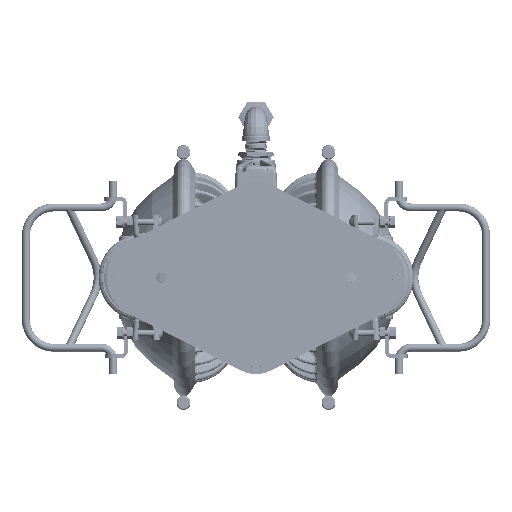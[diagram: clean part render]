
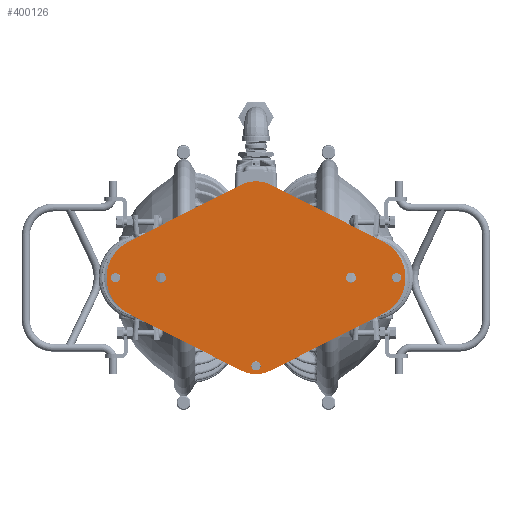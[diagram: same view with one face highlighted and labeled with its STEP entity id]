
A CAD part, front view. The second image highlights one B-rep face of the part: STEP entity #400126.
In plain terms, the highlighted planar face has unit normal (0, -1, 0).
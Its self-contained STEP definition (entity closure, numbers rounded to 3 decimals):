
#63585=CARTESIAN_POINT('',(-6.9,-15.41,0.));
#63586=DIRECTION('',(0.,1.,0.));
#63587=DIRECTION('',(-0.452,0.,-0.892));
#63588=AXIS2_PLACEMENT_3D('',#63585,#63586,#63587);
#63590=DIRECTION('',(0.892,0.,0.452));
#63591=VECTOR('',#63590,7.956);
#63592=CARTESIAN_POINT('',(-8.048,-15.41,2.269));
#63593=LINE('',#63592,#63591);
#63594=CARTESIAN_POINT('',(0.,-15.41,3.985));
#63595=DIRECTION('',(0.,1.,0.));
#63596=DIRECTION('',(-0.452,0.,0.892));
#63597=AXIS2_PLACEMENT_3D('',#63594,#63595,#63596);
#63599=DIRECTION('',(0.892,0.,-0.452));
#63600=VECTOR('',#63599,7.956);
#63601=CARTESIAN_POINT('',(0.949,-15.41,5.861));
#63602=LINE('',#63601,#63600);
#63603=CARTESIAN_POINT('',(6.9,-15.41,0.));
#63604=DIRECTION('',(0.,1.,0.));
#63605=DIRECTION('',(0.452,0.,0.892));
#63606=AXIS2_PLACEMENT_3D('',#63603,#63604,#63605);
#63608=DIRECTION('',(-0.892,0.,-0.452));
#63609=VECTOR('',#63608,7.956);
#63610=CARTESIAN_POINT('',(8.048,-15.41,-2.269));
#63611=LINE('',#63610,#63609);
#63612=CARTESIAN_POINT('',(0.,-15.41,-3.985));
#63613=DIRECTION('',(0.,1.,0.));
#63614=DIRECTION('',(0.452,0.,-0.892));
#63615=AXIS2_PLACEMENT_3D('',#63612,#63613,#63614);
#63617=DIRECTION('',(-0.892,0.,0.452));
#63618=VECTOR('',#63617,7.956);
#63619=CARTESIAN_POINT('',(-0.949,-15.41,-5.861));
#63620=LINE('',#63619,#63618);
#63621=CARTESIAN_POINT('',(6.,-15.41,0.));
#63622=DIRECTION('',(0.,-1.,0.));
#63623=DIRECTION('',(1.,0.,0.));
#63624=AXIS2_PLACEMENT_3D('',#63621,#63622,#63623);
#63626=CARTESIAN_POINT('',(6.,-15.41,0.));
#63627=DIRECTION('',(0.,-1.,0.));
#63628=DIRECTION('',(-1.,0.,0.));
#63629=AXIS2_PLACEMENT_3D('',#63626,#63627,#63628);
#63631=CARTESIAN_POINT('',(-6.,-15.41,0.));
#63632=DIRECTION('',(0.,-1.,0.));
#63633=DIRECTION('',(1.,0.,0.));
#63634=AXIS2_PLACEMENT_3D('',#63631,#63632,#63633);
#63636=CARTESIAN_POINT('',(-6.,-15.41,0.));
#63637=DIRECTION('',(0.,-1.,0.));
#63638=DIRECTION('',(-1.,0.,0.));
#63639=AXIS2_PLACEMENT_3D('',#63636,#63637,#63638);
#63641=CARTESIAN_POINT('',(-8.875,-15.41,0.));
#63642=DIRECTION('',(0.,1.,0.));
#63643=DIRECTION('',(1.,0.,0.));
#63644=AXIS2_PLACEMENT_3D('',#63641,#63642,#63643);
#63646=CARTESIAN_POINT('',(-8.875,-15.41,0.));
#63647=DIRECTION('',(0.,1.,0.));
#63648=DIRECTION('',(-1.,0.,0.));
#63649=AXIS2_PLACEMENT_3D('',#63646,#63647,#63648);
#63651=CARTESIAN_POINT('',(8.875,-15.41,0.));
#63652=DIRECTION('',(0.,1.,0.));
#63653=DIRECTION('',(1.,0.,0.));
#63654=AXIS2_PLACEMENT_3D('',#63651,#63652,#63653);
#63656=CARTESIAN_POINT('',(8.875,-15.41,0.));
#63657=DIRECTION('',(0.,1.,0.));
#63658=DIRECTION('',(-1.,0.,0.));
#63659=AXIS2_PLACEMENT_3D('',#63656,#63657,#63658);
#63661=CARTESIAN_POINT('',(0.,-15.41,-5.58));
#63662=DIRECTION('',(0.,1.,0.));
#63663=DIRECTION('',(1.,0.,0.));
#63664=AXIS2_PLACEMENT_3D('',#63661,#63662,#63663);
#63666=CARTESIAN_POINT('',(0.,-15.41,-5.58));
#63667=DIRECTION('',(0.,1.,0.));
#63668=DIRECTION('',(-1.,0.,0.));
#63669=AXIS2_PLACEMENT_3D('',#63666,#63667,#63668);
#346050=CARTESIAN_POINT('',(-8.048,-15.41,-2.269));
#346051=CARTESIAN_POINT('',(-8.048,-15.41,2.269));
#346052=VERTEX_POINT('',#346050);
#346053=VERTEX_POINT('',#346051);
#346054=CARTESIAN_POINT('',(-0.949,-15.41,5.861));
#346055=VERTEX_POINT('',#346054);
#346056=CARTESIAN_POINT('',(0.949,-15.41,5.861));
#346057=VERTEX_POINT('',#346056);
#346058=CARTESIAN_POINT('',(8.048,-15.41,2.269));
#346059=VERTEX_POINT('',#346058);
#346060=CARTESIAN_POINT('',(8.048,-15.41,-2.269));
#346061=VERTEX_POINT('',#346060);
#346062=CARTESIAN_POINT('',(0.949,-15.41,-5.861));
#346063=VERTEX_POINT('',#346062);
#346064=CARTESIAN_POINT('',(-0.949,-15.41,-5.861));
#346065=VERTEX_POINT('',#346064);
#346790=CARTESIAN_POINT('',(6.313,-15.41,0.));
#346791=CARTESIAN_POINT('',(5.688,-15.41,0.));
#346792=VERTEX_POINT('',#346790);
#346793=VERTEX_POINT('',#346791);
#346798=CARTESIAN_POINT('',(-5.688,-15.41,0.));
#346799=CARTESIAN_POINT('',(-6.313,-15.41,0.));
#346800=VERTEX_POINT('',#346798);
#346801=VERTEX_POINT('',#346799);
#346810=CARTESIAN_POINT('',(-8.588,-15.41,0.));
#346811=CARTESIAN_POINT('',(-9.163,-15.41,0.));
#346812=VERTEX_POINT('',#346810);
#346813=VERTEX_POINT('',#346811);
#346818=CARTESIAN_POINT('',(9.163,-15.41,0.));
#346819=CARTESIAN_POINT('',(8.588,-15.41,0.));
#346820=VERTEX_POINT('',#346818);
#346821=VERTEX_POINT('',#346819);
#346826=CARTESIAN_POINT('',(0.288,-15.41,-5.58));
#346827=CARTESIAN_POINT('',(-0.288,-15.41,-5.58));
#346828=VERTEX_POINT('',#346826);
#346829=VERTEX_POINT('',#346827);
#400078=CARTESIAN_POINT('',(0.,-15.41,0.));
#400079=DIRECTION('',(0.,1.,0.));
#400080=DIRECTION('',(1.,0.,0.));
#400081=AXIS2_PLACEMENT_3D('',#400078,#400079,#400080);
#400082=PLANE('',#400081);
#400083=ORIENTED_EDGE('',*,*,#393017,.T.);
#400085=ORIENTED_EDGE('',*,*,#400084,.T.);
#400087=ORIENTED_EDGE('',*,*,#400086,.T.);
#400089=ORIENTED_EDGE('',*,*,#400088,.T.);
#400090=ORIENTED_EDGE('',*,*,#391461,.T.);
#400091=ORIENTED_EDGE('',*,*,#399323,.T.);
#400092=ORIENTED_EDGE('',*,*,#399907,.T.);
#400093=ORIENTED_EDGE('',*,*,#399927,.T.);
#400094=EDGE_LOOP('',(#400083,#400085,#400087,#400089,#400090,#400091,#400092,
#400093));
#400095=FACE_OUTER_BOUND('',#400094,.F.);
#400097=ORIENTED_EDGE('',*,*,#400096,.T.);
#400099=ORIENTED_EDGE('',*,*,#400098,.T.);
#400100=EDGE_LOOP('',(#400097,#400099));
#400101=FACE_BOUND('',#400100,.F.);
#400103=ORIENTED_EDGE('',*,*,#400102,.T.);
#400105=ORIENTED_EDGE('',*,*,#400104,.T.);
#400106=EDGE_LOOP('',(#400103,#400105));
#400107=FACE_BOUND('',#400106,.F.);
#400109=ORIENTED_EDGE('',*,*,#400108,.F.);
#400111=ORIENTED_EDGE('',*,*,#400110,.F.);
#400112=EDGE_LOOP('',(#400109,#400111));
#400113=FACE_BOUND('',#400112,.F.);
#400115=ORIENTED_EDGE('',*,*,#400114,.F.);
#400117=ORIENTED_EDGE('',*,*,#400116,.F.);
#400118=EDGE_LOOP('',(#400115,#400117));
#400119=FACE_BOUND('',#400118,.F.);
#400121=ORIENTED_EDGE('',*,*,#400120,.F.);
#400123=ORIENTED_EDGE('',*,*,#400122,.F.);
#400124=EDGE_LOOP('',(#400121,#400123));
#400125=FACE_BOUND('',#400124,.F.);
#400126=ADVANCED_FACE('',(#400095,#400101,#400107,#400113,#400119,#400125),
#400082,.F.);
#63589=CIRCLE('',#63588,2.543);
#63598=CIRCLE('',#63597,2.103);
#63607=CIRCLE('',#63606,2.543);
#63616=CIRCLE('',#63615,2.103);
#63625=CIRCLE('',#63624,0.313);
#63630=CIRCLE('',#63629,0.313);
#63635=CIRCLE('',#63634,0.313);
#63640=CIRCLE('',#63639,0.313);
#63645=CIRCLE('',#63644,0.288);
#63650=CIRCLE('',#63649,0.288);
#63655=CIRCLE('',#63654,0.288);
#63660=CIRCLE('',#63659,0.288);
#63665=CIRCLE('',#63664,0.288);
#63670=CIRCLE('',#63669,0.288);
#391461=EDGE_CURVE('',#346059,#346061,#63607,.T.);
#393017=EDGE_CURVE('',#346052,#346053,#63589,.T.);
#399323=EDGE_CURVE('',#346061,#346063,#63611,.T.);
#399907=EDGE_CURVE('',#346063,#346065,#63616,.T.);
#399927=EDGE_CURVE('',#346065,#346052,#63620,.T.);
#400084=EDGE_CURVE('',#346053,#346055,#63593,.T.);
#400086=EDGE_CURVE('',#346055,#346057,#63598,.T.);
#400088=EDGE_CURVE('',#346057,#346059,#63602,.T.);
#400096=EDGE_CURVE('',#346792,#346793,#63625,.T.);
#400098=EDGE_CURVE('',#346793,#346792,#63630,.T.);
#400102=EDGE_CURVE('',#346800,#346801,#63635,.T.);
#400104=EDGE_CURVE('',#346801,#346800,#63640,.T.);
#400108=EDGE_CURVE('',#346812,#346813,#63645,.T.);
#400110=EDGE_CURVE('',#346813,#346812,#63650,.T.);
#400114=EDGE_CURVE('',#346820,#346821,#63655,.T.);
#400116=EDGE_CURVE('',#346821,#346820,#63660,.T.);
#400120=EDGE_CURVE('',#346828,#346829,#63665,.T.);
#400122=EDGE_CURVE('',#346829,#346828,#63670,.T.);
